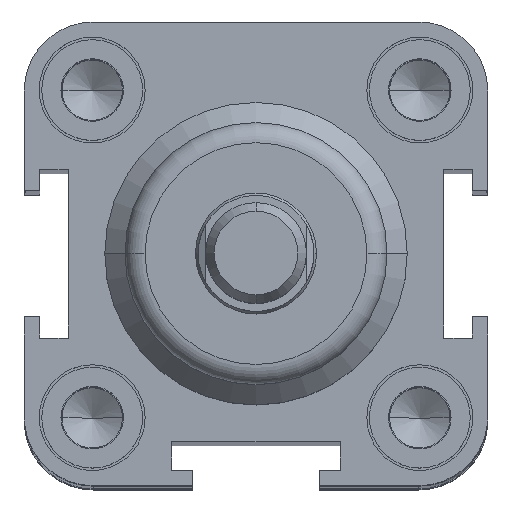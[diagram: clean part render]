
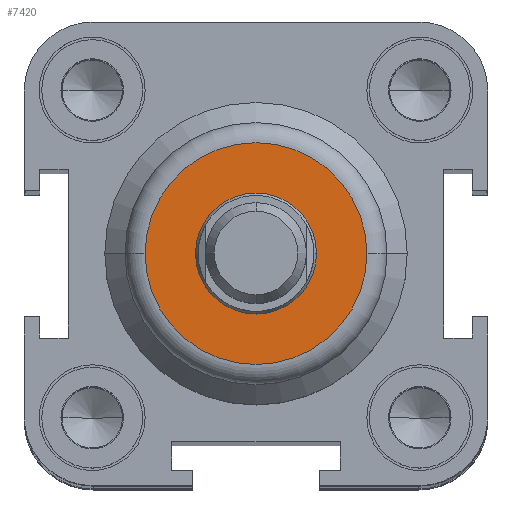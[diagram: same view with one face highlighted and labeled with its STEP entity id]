
A CAD part, top view. The second image highlights one B-rep face of the part: STEP entity #7420.
In plain terms, the highlighted planar face has unit normal (0, 0, 1).
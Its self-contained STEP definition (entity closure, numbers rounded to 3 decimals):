
#1472=CARTESIAN_POINT('',(-11.,0.0,138.0));
#1473=VERTEX_POINT('',#1472);
#1481=CARTESIAN_POINT('',(11.,0.,138.0));
#1482=VERTEX_POINT('',#1481);
#1483=CARTESIAN_POINT('',(0.0,0.0,138.0));
#1484=DIRECTION('',(0.0,0.0,-1.0));
#1485=DIRECTION('',(-1.0,0.0,0.0));
#1486=AXIS2_PLACEMENT_3D('',#1483,#1484,#1485);
#1487=CIRCLE('',#1486,11.);
#1488=EDGE_CURVE('',#1473,#1482,#1487,.T.);
#1593=CARTESIAN_POINT('',(6.,0.0,138.0));
#1594=VERTEX_POINT('',#1593);
#1610=CARTESIAN_POINT('',(-6.,0.,138.0));
#1611=VERTEX_POINT('',#1610);
#1618=CARTESIAN_POINT('',(0.0,0.0,138.0));
#1619=DIRECTION('',(0.0,0.0,-1.0));
#1620=DIRECTION('',(1.0,0.0,0.0));
#1621=AXIS2_PLACEMENT_3D('',#1618,#1619,#1620);
#1622=CIRCLE('',#1621,6.);
#1623=EDGE_CURVE('',#1594,#1611,#1622,.T.);
#7347=CARTESIAN_POINT('',(0.0,0.0,138.0));
#7348=DIRECTION('',(0.0,0.0,-1.0));
#7349=DIRECTION('',(1.0,0.0,0.0));
#7350=AXIS2_PLACEMENT_3D('',#7347,#7348,#7349);
#7351=CIRCLE('',#7350,6.);
#7352=EDGE_CURVE('',#1611,#1594,#7351,.T.);
#7401=CARTESIAN_POINT('',(-5.5,0.0,138.0));
#7402=DIRECTION('',(0.0,0.0,1.0));
#7403=DIRECTION('',(1.0,0.0,0.0));
#7404=AXIS2_PLACEMENT_3D('',#7401,#7402,#7403);
#7405=PLANE('',#7404);
#7406=ORIENTED_EDGE('',*,*,#1488,.F.);
#7407=CARTESIAN_POINT('',(0.0,0.0,138.0));
#7408=DIRECTION('',(0.0,0.0,-1.0));
#7409=DIRECTION('',(-1.0,0.0,0.0));
#7410=AXIS2_PLACEMENT_3D('',#7407,#7408,#7409);
#7411=CIRCLE('',#7410,11.);
#7412=EDGE_CURVE('',#1482,#1473,#7411,.T.);
#7413=ORIENTED_EDGE('',*,*,#7412,.F.);
#7414=EDGE_LOOP('',(#7406,#7413));
#7415=FACE_OUTER_BOUND('',#7414,.T.);
#7416=ORIENTED_EDGE('',*,*,#1623,.T.);
#7417=ORIENTED_EDGE('',*,*,#7352,.T.);
#7418=EDGE_LOOP('',(#7416,#7417));
#7419=FACE_BOUND('',#7418,.T.);
#7420=ADVANCED_FACE('',(#7415,#7419),#7405,.T.);
